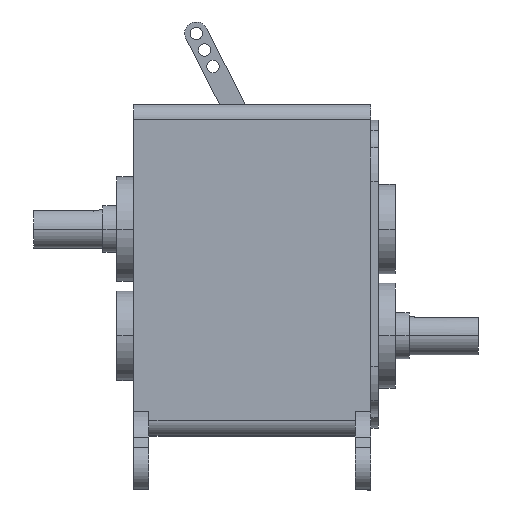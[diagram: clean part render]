
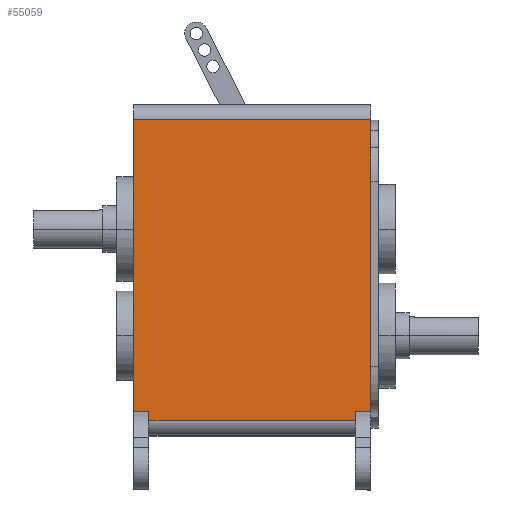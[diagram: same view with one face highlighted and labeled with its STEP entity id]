
A CAD part, top view. The second image highlights one B-rep face of the part: STEP entity #55059.
In plain terms, the highlighted planar face has unit normal (0, 0, 1).
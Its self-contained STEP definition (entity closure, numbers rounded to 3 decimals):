
#949 = CARTESIAN_POINT ( 'NONE',  ( 154., -72.537, 110. ) ) ;
#1304 = VECTOR ( 'NONE', #47680, 1000. ) ;
#3883 = PLANE ( 'NONE',  #23946 ) ;
#5590 = VERTEX_POINT ( 'NONE', #41247 ) ;
#7959 = VERTEX_POINT ( 'NONE', #45045 ) ;
#8325 = DIRECTION ( 'NONE',  ( 1., 0., 0. ) ) ;
#8910 = ORIENTED_EDGE ( 'NONE', *, *, #19727, .T. ) ;
#14022 = VECTOR ( 'NONE', #62017, 1000. ) ;
#16059 = EDGE_CURVE ( 'NONE', #31229, #29363, #32172, .T. ) ;
#19569 = CARTESIAN_POINT ( 'NONE',  ( 10., -123.094, 110. ) ) ;
#19727 = EDGE_CURVE ( 'NONE', #29363, #5590, #30098, .T. ) ;
#20390 = DIRECTION ( 'NONE',  ( 0., 1., 0. ) ) ;
#22904 = CARTESIAN_POINT ( 'NONE',  ( 10., -78.094, 110. ) ) ;
#23946 = AXIS2_PLACEMENT_3D ( 'NONE', #33026, #44512, #20390 ) ;
#24191 = EDGE_LOOP ( 'NONE', ( #30104, #35321, #60354, #8910, #28180, #44062, #41614, #51743 ) ) ;
#24364 = DIRECTION ( 'NONE',  ( 1., 0., 0. ) ) ;
#24726 = CARTESIAN_POINT ( 'NONE',  ( 0., 0., 110. ) ) ;
#24737 = LINE ( 'NONE', #65709, #72575 ) ;
#25336 = LINE ( 'NONE', #19569, #42269 ) ;
#28180 = ORIENTED_EDGE ( 'NONE', *, *, #74753, .T. ) ;
#28440 = VERTEX_POINT ( 'NONE', #50263 ) ;
#28885 = CARTESIAN_POINT ( 'NONE',  ( 0., -72.537, 110. ) ) ;
#29331 = LINE ( 'NONE', #24726, #58070 ) ;
#29363 = VERTEX_POINT ( 'NONE', #49191 ) ;
#29578 = DIRECTION ( 'NONE',  ( 0., 1., 0. ) ) ;
#30098 = LINE ( 'NONE', #949, #74606 ) ;
#30104 = ORIENTED_EDGE ( 'NONE', *, *, #51664, .F. ) ;
#31229 = VERTEX_POINT ( 'NONE', #67812 ) ;
#31941 = LINE ( 'NONE', #48818, #1304 ) ;
#32172 = LINE ( 'NONE', #49788, #59955 ) ;
#33026 = CARTESIAN_POINT ( 'NONE',  ( 10., 0., 110. ) ) ;
#35321 = ORIENTED_EDGE ( 'NONE', *, *, #63591, .T. ) ;
#37343 = DIRECTION ( 'NONE',  ( 0., -1., 0. ) ) ;
#38089 = VECTOR ( 'NONE', #8325, 1000. ) ;
#38309 = DIRECTION ( 'NONE',  ( 0., 1., 0. ) ) ;
#40658 = EDGE_CURVE ( 'NONE', #61609, #52950, #31941, .T. ) ;
#41247 = CARTESIAN_POINT ( 'NONE',  ( 154., -72.537, 110. ) ) ;
#41614 = ORIENTED_EDGE ( 'NONE', *, *, #48296, .T. ) ;
#41729 = LINE ( 'NONE', #65087, #38089 ) ;
#42269 = VECTOR ( 'NONE', #29578, 1000. ) ;
#44062 = ORIENTED_EDGE ( 'NONE', *, *, #48695, .T. ) ;
#44512 = DIRECTION ( 'NONE',  ( 0., 0., -1. ) ) ;
#45045 = CARTESIAN_POINT ( 'NONE',  ( 154., 116.906, 110. ) ) ;
#47680 = DIRECTION ( 'NONE',  ( 1., 0., 0. ) ) ;
#48296 = EDGE_CURVE ( 'NONE', #28440, #61609, #29331, .T. ) ;
#48695 = EDGE_CURVE ( 'NONE', #7959, #28440, #68511, .T. ) ;
#48818 = CARTESIAN_POINT ( 'NONE',  ( 154., -72.537, 110. ) ) ;
#49191 = CARTESIAN_POINT ( 'NONE',  ( 144., -72.537, 110. ) ) ;
#49788 = CARTESIAN_POINT ( 'NONE',  ( 144., -123.094, 110. ) ) ;
#50263 = CARTESIAN_POINT ( 'NONE',  ( 0., 116.906, 110. ) ) ;
#51459 = CARTESIAN_POINT ( 'NONE',  ( 10., -72.537, 110. ) ) ;
#51664 = EDGE_CURVE ( 'NONE', #70167, #52950, #25336, .T. ) ;
#51743 = ORIENTED_EDGE ( 'NONE', *, *, #40658, .T. ) ;
#52950 = VERTEX_POINT ( 'NONE', #51459 ) ;
#55059 = ADVANCED_FACE ( 'NONE', ( #56385 ), #3883, .F. ) ;
#56385 = FACE_OUTER_BOUND ( 'NONE', #24191, .T. ) ;
#58070 = VECTOR ( 'NONE', #37343, 1000. ) ;
#59955 = VECTOR ( 'NONE', #38309, 1000. ) ;
#59969 = DIRECTION ( 'NONE',  ( 0., 1., 0. ) ) ;
#60354 = ORIENTED_EDGE ( 'NONE', *, *, #16059, .T. ) ;
#61609 = VERTEX_POINT ( 'NONE', #28885 ) ;
#62017 = DIRECTION ( 'NONE',  ( -1., 0., 0. ) ) ;
#63591 = EDGE_CURVE ( 'NONE', #70167, #31229, #41729, .T. ) ;
#65087 = CARTESIAN_POINT ( 'NONE',  ( 10., -78.094, 110. ) ) ;
#65709 = CARTESIAN_POINT ( 'NONE',  ( 154., -83.094, 110. ) ) ;
#67812 = CARTESIAN_POINT ( 'NONE',  ( 144., -78.094, 110. ) ) ;
#68127 = CARTESIAN_POINT ( 'NONE',  ( 10., 116.906, 110. ) ) ;
#68511 = LINE ( 'NONE', #68127, #14022 ) ;
#70167 = VERTEX_POINT ( 'NONE', #22904 ) ;
#72575 = VECTOR ( 'NONE', #59969, 1000. ) ;
#74606 = VECTOR ( 'NONE', #24364, 1000. ) ;
#74753 = EDGE_CURVE ( 'NONE', #5590, #7959, #24737, .T. ) ;
